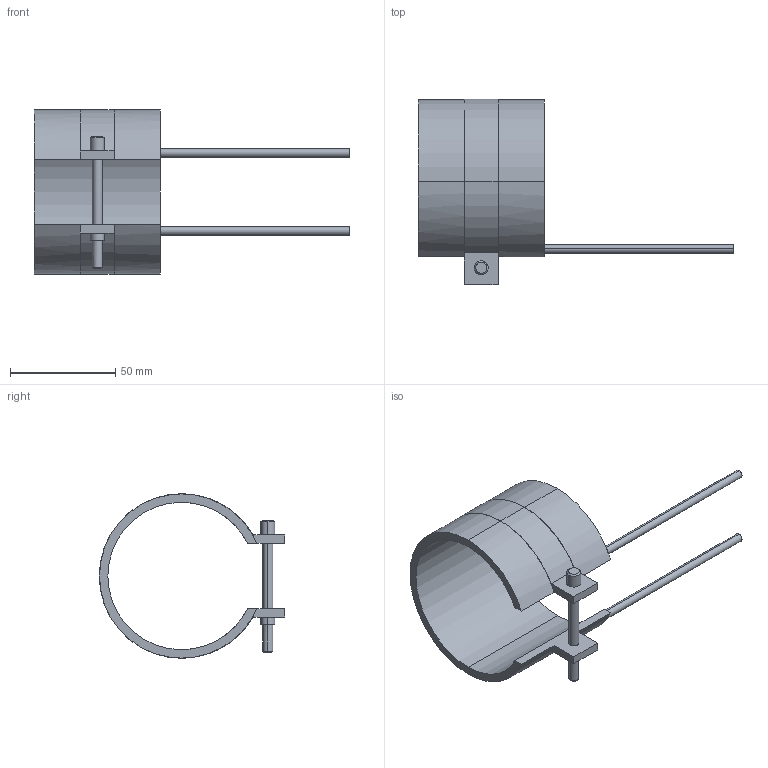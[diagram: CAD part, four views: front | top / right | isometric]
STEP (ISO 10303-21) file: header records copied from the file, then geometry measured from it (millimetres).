
FILE_DESCRIPTION(('CATIA V5 STEP Exchange'),'2;1');
FILE_NAME('C:\Users\Utente\Desktop\IO LAVORO\3D X SITO CF\X SITO\PLASTICA\RF2\14070060.stp','2021-04-03T08:47:57+00:00',('none'),('none'),'CATIA Version 5 Release 20 GA (IN-10)','CATIA V5 STEP AP203','none');
FILE_SCHEMA(('CONFIG_CONTROL_DESIGN'));
Length unit declared in the file: millimetre
Products named in the file (1): 14070060
Bounding box: 150 x 88.1 x 78.2 mm (x, y, z)
Volume: 53639.7 mm3; surface area: 30443.3 mm2
Topology: 1 solids, 1 shells, 45 faces, 116 edges, 76 vertices
Faces by surface type: cylinder 24, plane 17, cone 4
Entity records: 1412 total; most frequent: CARTESIAN_POINT 288, ORIENTED_EDGE 232, DIRECTION 195, EDGE_CURVE 116, AXIS2_PLACEMENT_3D 103, VERTEX_POINT 76, CIRCLE 61, VECTOR 52
